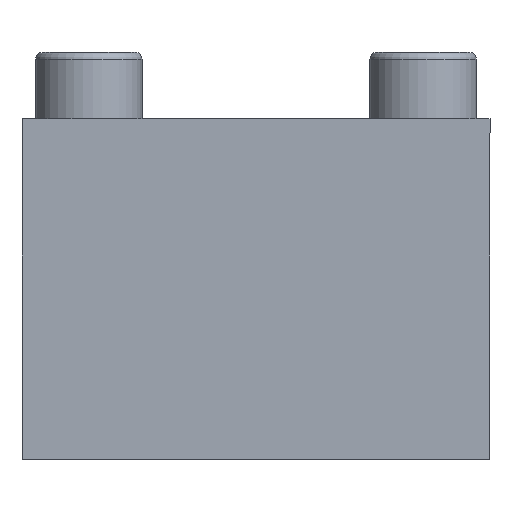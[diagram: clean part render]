
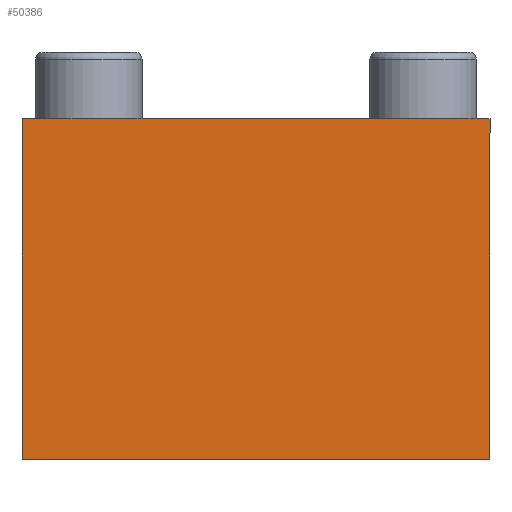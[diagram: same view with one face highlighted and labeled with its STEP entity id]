
A CAD part, front view. The second image highlights one B-rep face of the part: STEP entity #50386.
In plain terms, the highlighted planar face has unit normal (0, -1, 0).
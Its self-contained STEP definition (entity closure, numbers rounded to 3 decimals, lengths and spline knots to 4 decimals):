
#7672=FACE_OUTER_BOUND('',#10568,.T.);
#10568=EDGE_LOOP('',(#45957,#45958,#45959,#45960));
#10589=LINE('',#61774,#15793);
#10600=LINE('',#61849,#15804);
#15770=LINE('',#84261,#20974);
#15771=LINE('',#84262,#20975);
#15793=VECTOR('',#52471,5.1);
#15804=VECTOR('',#52556,7.);
#20974=VECTOR('',#61700,5.1);
#20975=VECTOR('',#61701,7.);
#21117=VERTEX_POINT('',#61772);
#21118=VERTEX_POINT('',#61773);
#21145=VERTEX_POINT('',#61848);
#25648=VERTEX_POINT('',#84260);
#25669=EDGE_CURVE('',#21117,#21118,#10589,.T.);
#25702=EDGE_CURVE('',#21117,#21145,#10600,.T.);
#32422=EDGE_CURVE('',#21145,#25648,#15770,.T.);
#32423=EDGE_CURVE('',#25648,#21118,#15771,.T.);
#45957=ORIENTED_EDGE('',*,*,#32422,.F.);
#45958=ORIENTED_EDGE('',*,*,#25702,.F.);
#45959=ORIENTED_EDGE('',*,*,#25669,.T.);
#45960=ORIENTED_EDGE('',*,*,#32423,.F.);
#47824=PLANE('',#52430);
#50386=ADVANCED_FACE('',(#7672),#47824,.T.);
#52430=AXIS2_PLACEMENT_3D('',#84259,#61698,#61699);
#52471=DIRECTION('',(0.,0.,-1.));
#52556=DIRECTION('',(1.,0.,0.));
#61698=DIRECTION('center_axis',(0.,-1.,0.));
#61699=DIRECTION('ref_axis',(-1.,0.,0.));
#61700=DIRECTION('',(0.,0.,-1.));
#61701=DIRECTION('',(-1.,0.,0.));
#61772=CARTESIAN_POINT('',(-3.5,-18.5,4.1));
#61773=CARTESIAN_POINT('',(-3.5,-18.5,-1.));
#61774=CARTESIAN_POINT('',(-3.5,-18.5,0.));
#61848=CARTESIAN_POINT('',(3.5,-18.5,4.1));
#61849=CARTESIAN_POINT('',(3.5,-18.5,4.1));
#84259=CARTESIAN_POINT('Origin',(3.5,-18.5,3.1));
#84260=CARTESIAN_POINT('',(3.5,-18.5,-1.));
#84261=CARTESIAN_POINT('',(3.5,-18.5,0.));
#84262=CARTESIAN_POINT('',(3.5,-18.5,-1.));
